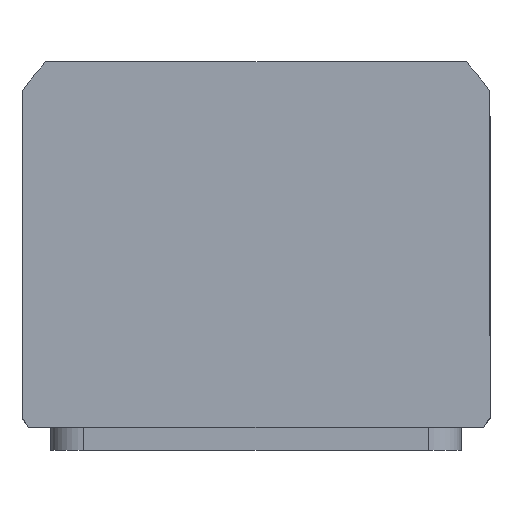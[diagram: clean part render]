
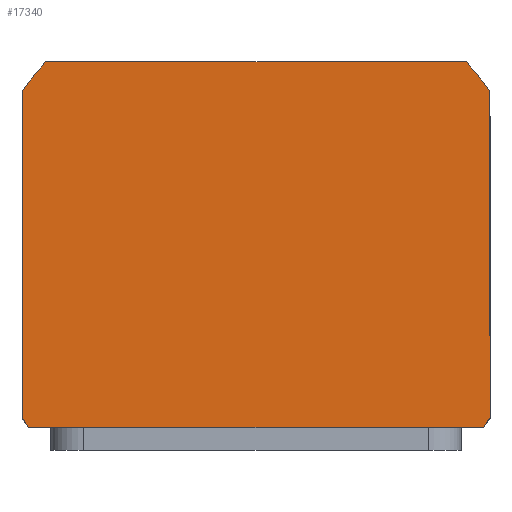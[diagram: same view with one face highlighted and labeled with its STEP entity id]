
A CAD part, top view. The second image highlights one B-rep face of the part: STEP entity #17340.
In plain terms, the highlighted planar face has unit normal (0, 0, 1) as drawn and (0, 0, -1) by its records, which use the part's own axes.
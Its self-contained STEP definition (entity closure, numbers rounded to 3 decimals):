
#290 = PLANE ( 'NONE',  #16186 ) ;
#470 = ORIENTED_EDGE ( 'NONE', *, *, #7662, .F. ) ;
#581 = CIRCLE ( 'NONE', #15183, 69.5 ) ;
#595 = DIRECTION ( 'NONE',  ( 1., 0., 0. ) ) ;
#1283 = AXIS2_PLACEMENT_3D ( 'NONE', #15058, #6591, #16452 ) ;
#1410 = CIRCLE ( 'NONE', #5824, 69.5 ) ;
#1584 = ORIENTED_EDGE ( 'NONE', *, *, #17491, .F. ) ;
#2820 = ORIENTED_EDGE ( 'NONE', *, *, #3527, .F. ) ;
#2990 = CARTESIAN_POINT ( 'NONE',  ( 57., -37.265, 0. ) ) ;
#3009 = VECTOR ( 'NONE', #16751, 1000. ) ;
#3010 = CARTESIAN_POINT ( 'NONE',  ( -57., 44.5, 0. ) ) ;
#3075 = DIRECTION ( 'NONE',  ( 0., -1., 0. ) ) ;
#3527 = EDGE_CURVE ( 'NONE', #7239, #14515, #1410, .T. ) ;
#3710 = CARTESIAN_POINT ( 'NONE',  ( -55.374, 44.5, 0. ) ) ;
#4283 = CARTESIAN_POINT ( 'NONE',  ( -57., -37.265, 0. ) ) ;
#4626 = LINE ( 'NONE', #3010, #11709 ) ;
#4774 = DIRECTION ( 'NONE',  ( 0., 0., 1. ) ) ;
#4877 = ORIENTED_EDGE ( 'NONE', *, *, #12171, .F. ) ;
#5098 = CARTESIAN_POINT ( 'NONE',  ( 0., 2.5, 0. ) ) ;
#5440 = CARTESIAN_POINT ( 'NONE',  ( 51.198, -44.5, 0. ) ) ;
#5530 = EDGE_CURVE ( 'NONE', #10809, #7198, #10535, .T. ) ;
#5664 = EDGE_LOOP ( 'NONE', ( #4877, #10481, #1584, #470, #2820, #8439, #16384, #16762 ) ) ;
#5824 = AXIS2_PLACEMENT_3D ( 'NONE', #5098, #14983, #6515 ) ;
#6052 = LINE ( 'NONE', #17992, #16874 ) ;
#6055 = VERTEX_POINT ( 'NONE', #6692 ) ;
#6421 = CARTESIAN_POINT ( 'NONE',  ( 0., 2.5, 0. ) ) ;
#6486 = CARTESIAN_POINT ( 'NONE',  ( 55.374, 44.5, 0. ) ) ;
#6515 = DIRECTION ( 'NONE',  ( 1., 0., 0. ) ) ;
#6591 = DIRECTION ( 'NONE',  ( 0., 0., 1. ) ) ;
#6692 = CARTESIAN_POINT ( 'NONE',  ( 57., 42.265, 0. ) ) ;
#6958 = EDGE_CURVE ( 'NONE', #7198, #17951, #581, .T. ) ;
#7054 = CIRCLE ( 'NONE', #1283, 69.5 ) ;
#7198 = VERTEX_POINT ( 'NONE', #3710 ) ;
#7239 = VERTEX_POINT ( 'NONE', #4283 ) ;
#7662 = EDGE_CURVE ( 'NONE', #14515, #12760, #18206, .T. ) ;
#7842 = DIRECTION ( 'NONE',  ( 1., 0., 0. ) ) ;
#8002 = EDGE_CURVE ( 'NONE', #14181, #6055, #6052, .T. ) ;
#8295 = CARTESIAN_POINT ( 'NONE',  ( -57., 44.5, 0. ) ) ;
#8439 = ORIENTED_EDGE ( 'NONE', *, *, #11749, .F. ) ;
#8857 = DIRECTION ( 'NONE',  ( 1., 0., 0. ) ) ;
#10472 = CARTESIAN_POINT ( 'NONE',  ( -57., -44.5, 0. ) ) ;
#10481 = ORIENTED_EDGE ( 'NONE', *, *, #8002, .F. ) ;
#10535 = LINE ( 'NONE', #8295, #3009 ) ;
#10809 = VERTEX_POINT ( 'NONE', #6486 ) ;
#11709 = VECTOR ( 'NONE', #3075, 1000. ) ;
#11749 = EDGE_CURVE ( 'NONE', #17951, #7239, #4626, .T. ) ;
#11771 = CARTESIAN_POINT ( 'NONE',  ( -51.198, -44.5, 0. ) ) ;
#12171 = EDGE_CURVE ( 'NONE', #6055, #10809, #7054, .T. ) ;
#12486 = CARTESIAN_POINT ( 'NONE',  ( -57., 42.265, 0. ) ) ;
#12568 = CIRCLE ( 'NONE', #15251, 69.5 ) ;
#12760 = VERTEX_POINT ( 'NONE', #5440 ) ;
#13251 = CARTESIAN_POINT ( 'NONE',  ( 0., 2.5, 0. ) ) ;
#13904 = FACE_OUTER_BOUND ( 'NONE', #5664, .T. ) ;
#14181 = VERTEX_POINT ( 'NONE', #2990 ) ;
#14457 = VECTOR ( 'NONE', #595, 1000. ) ;
#14475 = CARTESIAN_POINT ( 'NONE',  ( 0., 0., 0. ) ) ;
#14515 = VERTEX_POINT ( 'NONE', #11771 ) ;
#14658 = DIRECTION ( 'NONE',  ( 1., 0., 0. ) ) ;
#14983 = DIRECTION ( 'NONE',  ( 0., 0., 1. ) ) ;
#15058 = CARTESIAN_POINT ( 'NONE',  ( 0., 2.5, 0. ) ) ;
#15183 = AXIS2_PLACEMENT_3D ( 'NONE', #6421, #16290, #7842 ) ;
#15251 = AXIS2_PLACEMENT_3D ( 'NONE', #13251, #4774, #14658 ) ;
#16186 = AXIS2_PLACEMENT_3D ( 'NONE', #14475, #17314, #8857 ) ;
#16290 = DIRECTION ( 'NONE',  ( 0., 0., 1. ) ) ;
#16384 = ORIENTED_EDGE ( 'NONE', *, *, #6958, .F. ) ;
#16452 = DIRECTION ( 'NONE',  ( 1., 0., 0. ) ) ;
#16751 = DIRECTION ( 'NONE',  ( -1., 0., 0. ) ) ;
#16762 = ORIENTED_EDGE ( 'NONE', *, *, #5530, .F. ) ;
#16874 = VECTOR ( 'NONE', #18045, 1000. ) ;
#17314 = DIRECTION ( 'NONE',  ( 0., 0., 1. ) ) ;
#17340 = ADVANCED_FACE ( 'NONE', ( #13904 ), #290, .F. ) ;
#17491 = EDGE_CURVE ( 'NONE', #12760, #14181, #12568, .T. ) ;
#17951 = VERTEX_POINT ( 'NONE', #12486 ) ;
#17992 = CARTESIAN_POINT ( 'NONE',  ( 57., 44.5, 0. ) ) ;
#18045 = DIRECTION ( 'NONE',  ( 0., 1., 0. ) ) ;
#18206 = LINE ( 'NONE', #10472, #14457 ) ;
